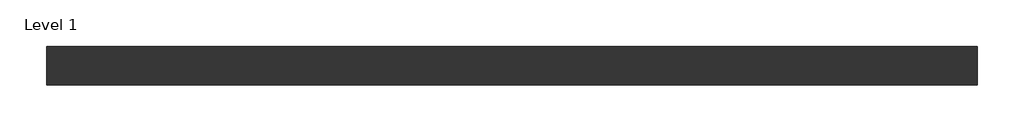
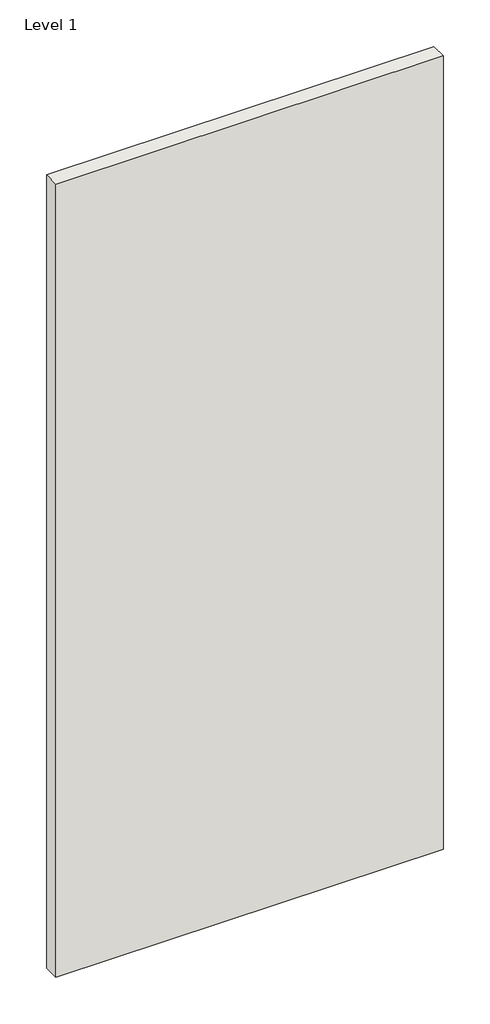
# One storey: 1 wall.
"""IFC4 building model written with IfcOpenShell, lengths in millimetres."""

import ifcopenshell
import ifcopenshell.guid

model = None  # the IFC model being written
_history = None  # IfcOwnerHistory: only IFC2X3 demands one
_inside = {}  # id of a spatial element -> (the spatial element, [elements in it])
_under = {}  # id of a project, library or spatial element -> (it, [spatial elements below it])
_declared = {}  # id of a project -> (the project, [libraries it declares])
_typed = {}  # id of a type object -> (the type object, [elements of that type])
_made_of = {}  # id of a material, layer set ... -> (it, [elements and type objects made of it])


def new_model(schema):
    """Start an empty IFC model of exactly this schema.

    Asked for "IFC4X3", IfcOpenShell would pick the latest addendum, in which some entities
    have other attributes; the version numbers below select the first issue.
    IFC2X3 requires an IfcOwnerHistory on every rooted entity: one is made here for all.
    """
    global model, _history
    if schema == "IFC4X3":
        model = ifcopenshell.file(schema_version=(4, 3, 0, 0))
    else:
        model = ifcopenshell.file(schema=schema)
    _inside.clear()
    _under.clear()
    _declared.clear()
    _typed.clear()
    _made_of.clear()
    _history = None
    if model.schema == "IFC2X3":
        org = make("IfcOrganization", Name="unknown")
        user = make(
            "IfcPersonAndOrganization",
            ThePerson=make("IfcPerson", FamilyName="unknown"),
            TheOrganization=org,
        )
        app = make(
            "IfcApplication",
            ApplicationDeveloper=org,
            Version="unknown",
            ApplicationFullName="unknown",
            ApplicationIdentifier="unknown",
        )
        _history = make(
            "IfcOwnerHistory",
            OwningUser=user,
            OwningApplication=app,
            ChangeAction="ADDED",
            CreationDate=0,
        )
    return model


def make(cls, **values):
    """One entity of the class cls with the attributes given. An attribute that is None is left unset."""
    return model.create_entity(
        cls, **{name: value for name, value in values.items() if value is not None}
    )


def rooted(cls, **values):
    """An entity with a GlobalId (a new one), such as an element, a storey or a relation."""
    return make(cls, GlobalId=ifcopenshell.guid.new(), OwnerHistory=_history, **values)


def si_unit(unit_type, name, prefix=None):
    """IfcSIUnit, for example si_unit("LENGTHUNIT", "METRE", prefix="MILLI")."""
    return make("IfcSIUnit", UnitType=unit_type, Prefix=prefix, Name=name)


def assignment(units):
    """IfcUnitAssignment: the units of a project."""
    return None if units is None else make("IfcUnitAssignment", Units=units)


def point(xyz):
    """IfcCartesianPoint."""
    return None if xyz is None else make("IfcCartesianPoint", Coordinates=xyz)


def direction(xyz):
    """IfcDirection."""
    return None if xyz is None else make("IfcDirection", DirectionRatios=xyz)


def frame(location, z_axis=None, x_axis=None):
    """IfcAxis2Placement3D, a coordinate frame: its origin and axes. An axis left out is left unset."""
    return make(
        "IfcAxis2Placement3D",
        Location=point(location),
        Axis=direction(z_axis),
        RefDirection=direction(x_axis),
    )


def origin():
    """The frame at (0, 0, 0) with its axes left unset."""
    return frame((0.0, 0.0, 0.0))


def origin_with_axes():
    """The frame at (0, 0, 0) with the z axis (0, 0, 1) and the x axis (1, 0, 0) written out."""
    return frame((0.0, 0.0, 0.0), z_axis=(0.0, 0.0, 1.0), x_axis=(1.0, 0.0, 0.0))


def place(relative_to, where):
    """IfcLocalPlacement: puts the frame where relative to a parent placement (None: the world)."""
    return make(
        "IfcLocalPlacement", PlacementRelTo=relative_to, RelativePlacement=where
    )


def context(
    kind, dimensions, precision=None, world=None, true_north=None, identifier=None
):
    """IfcGeometricRepresentationContext, for example the 3D "Model" context."""
    return make(
        "IfcGeometricRepresentationContext",
        ContextIdentifier=identifier,
        ContextType=kind,
        CoordinateSpaceDimension=dimensions,
        Precision=precision,
        WorldCoordinateSystem=world,
        TrueNorth=true_north,
    )


def project(units=None, contexts=None):
    """IfcProject with its units and contexts."""
    return rooted(
        "IfcProject",
        Name="project",
        RepresentationContexts=contexts,
        UnitsInContext=assignment(units),
    )


def spatial(cls, under=None, at=None, **own):
    """A site, building, storey or space (cls), placed at a placement, below another one or the project."""
    s = rooted(cls, ObjectPlacement=at, **own)
    if under is not None:
        _under.setdefault(under.id(), (under, []))[1].append(s)
    return s


def polyline(points):
    """IfcPolyline through the points."""
    return make("IfcPolyline", Points=[point(p) for p in points])


def outline(outer, holes=None, kind="AREA"):
    """IfcArbitraryClosedProfileDef: a profile drawn as a closed curve; with holes, ...WithVoids."""
    if holes is None:
        return make("IfcArbitraryClosedProfileDef", ProfileType=kind, OuterCurve=outer)
    return make(
        "IfcArbitraryProfileDefWithVoids",
        ProfileType=kind,
        OuterCurve=outer,
        InnerCurves=holes,
    )


def extrude(swept, where, along, depth):
    """IfcExtrudedAreaSolid: the profile swept, set in the frame where, extruded along a direction by depth."""
    return make(
        "IfcExtrudedAreaSolid",
        SweptArea=swept,
        Position=where,
        ExtrudedDirection=direction(along),
        Depth=depth,
    )


def shape(context_of_items, identifier, shape_type, items):
    """IfcShapeRepresentation: the items that make up one representation, for example the "Body"."""
    return make(
        "IfcShapeRepresentation",
        ContextOfItems=context_of_items,
        RepresentationIdentifier=identifier,
        RepresentationType=shape_type,
        Items=items,
    )


def made_of(thing, what):
    """Note that an element or type object is made of a material, layer set ...; save() writes the relation."""
    if what is not None:
        _made_of.setdefault(what.id(), (what, []))[1].append(thing)
    return thing


def element(
    cls,
    number,
    at=None,
    inside=None,
    cuts=None,
    type_object=None,
    material=None,
    context=None,
    identifier="Body",
    shape_type=None,
    held_by="IfcProductDefinitionShape",
    body=None,
    shapes=None,
    **own,
):
    """One element of the class cls, such as IfcWall. Its Tag is "e" and its number.

    at: its placement. inside: the storey or other place that contains it. cuts: it is an
    opening in that element (IfcRelVoidsElement). A single representation is given by context,
    identifier, shape_type and body (its items); several are given by shapes. held_by: the class
    of the entity that holds the representations. save() writes the other relations.
    """
    e = rooted(cls, Tag="e%d" % number, ObjectPlacement=at, **own)
    if body is not None:
        shapes = [shape(context, identifier, shape_type, body)]
    if shapes is not None:
        e.Representation = make(held_by, Representations=shapes)
    if inside is not None:
        _inside.setdefault(inside.id(), (inside, []))[1].append(e)
    if cuts is not None:
        rooted(
            "IfcRelVoidsElement", RelatingBuildingElement=cuts, RelatedOpeningElement=e
        )
    if type_object is not None:
        _typed.setdefault(type_object.id(), (type_object, []))[1].append(e)
    return made_of(e, material)


def aggregate(whole, parts):
    """IfcRelAggregates: a whole, such as a stair, and the parts it consists of."""
    return rooted("IfcRelAggregates", RelatingObject=whole, RelatedObjects=parts)


def save(model, path):
    """Write the relations noted so far, then the file.

    IfcRelAggregates (storeys below a building ...), IfcRelContainedInSpatialStructure (elements
    in a storey), IfcRelDefinesByType, IfcRelAssociatesMaterial and IfcRelDeclares: one each for
    every whole, place, type object, material and project.
    """
    for whole, parts in _under.values():
        aggregate(whole, parts)
    for where, things in _inside.values():
        rooted(
            "IfcRelContainedInSpatialStructure",
            RelatedElements=things,
            RelatingStructure=where,
        )
    for kind, things in _typed.values():
        rooted("IfcRelDefinesByType", RelatedObjects=things, RelatingType=kind)
    for what, things in _made_of.values():
        rooted("IfcRelAssociatesMaterial", RelatedObjects=things, RelatingMaterial=what)
    for by, libraries in _declared.values():
        rooted("IfcRelDeclares", RelatingContext=by, RelatedDefinitions=libraries)
    model.write(path)


model = new_model("IFC4")

# Units and contexts
model_context = context("Model", 3, world=origin())
ifc_project = project(units=[si_unit("LENGTHUNIT", "METRE", prefix="MILLI")], contexts=[model_context])

# Site, building, storey
site = spatial("IfcSite", under=ifc_project)
building = spatial("IfcBuilding", under=site)
storey = spatial("IfcBuildingStorey", under=building, Name="Level 1", Elevation=0.0)

# Wall
placement = place(None, origin())
element("IfcWall", 1, ObjectType="ACUSTILAINE 50mm", at=placement, inside=storey, context=model_context, shape_type="SweptSolid", body=[
    extrude(outline(polyline([(-2444.8369443, -1955.0445576), (-3644.8369443, -1955.0445576), (-3644.8369443, -1905.0445576), (-2444.8369443, -1905.0445576), (-2444.8369443, -1955.0445576)])), origin_with_axes(), (0.0, 0.0, 1.0), 2600.0),
])

save(model, "model.ifc")
